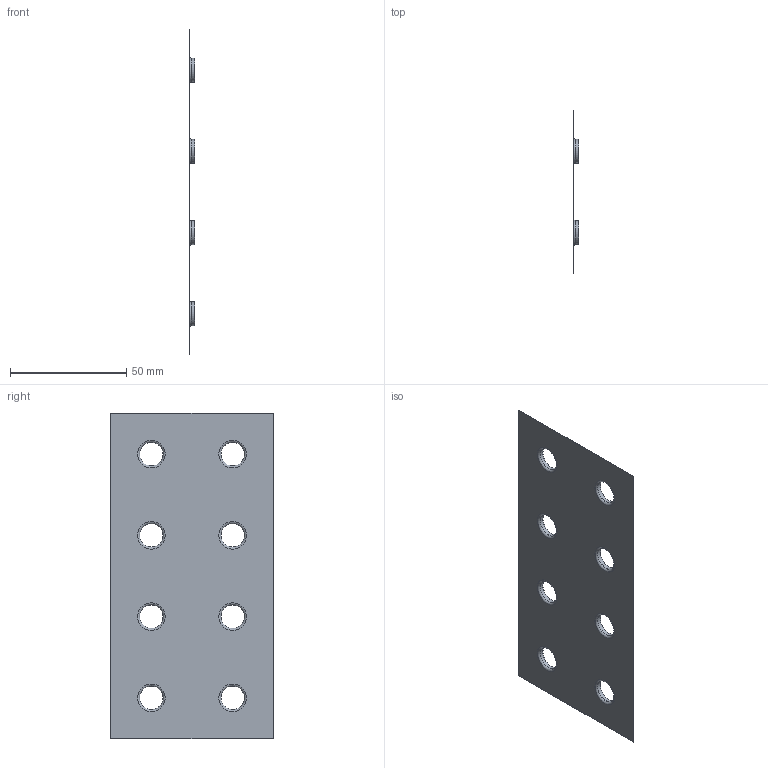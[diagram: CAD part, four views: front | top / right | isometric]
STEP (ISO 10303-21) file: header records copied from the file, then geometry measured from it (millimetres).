
FILE_DESCRIPTION( ( 'Unknown' ), '1' );
FILE_NAME( '//SERVER2K3/Dati/Documenti/TEC/SolidEdge/solidedge/Template/Pacchi Alettati/Geometrie formato STEP/Pacco Standard 35x35 ø9,52.stp', 'Unknown', ( 'Unknown' ), ( 'Unknown' ), 'PSStep 15.0.49', 'Unknown', ' ' );
FILE_SCHEMA( ( 'AUTOMOTIVE_DESIGN { 1 0 10303 214 1 1 1 1 }' ) );
Length unit declared in the file: millimetre
Products named in the file (1): 1
Bounding box: 2.5 x 70 x 140 mm (x, y, z)
Volume: 1064.9 mm3; surface area: 19435.8 mm2
Topology: 1 solids, 1 shells, 46 faces, 108 edges, 72 vertices
Faces by surface type: cylinder 16, torus 16, plane 14
Full cylindrical faces by diameter (mm): 10.1 x8, 10.32 x8
Entity records: 1452 total; most frequent: DIRECTION 202, CARTESIAN_POINT 163, ORIENTED_EDGE 120, EDGE_LOOP 102, AXIS2_PLACEMENT_3D 95, FACE_OUTER_BOUND 78, EDGE_CURVE 60, VERTEX_POINT 56
